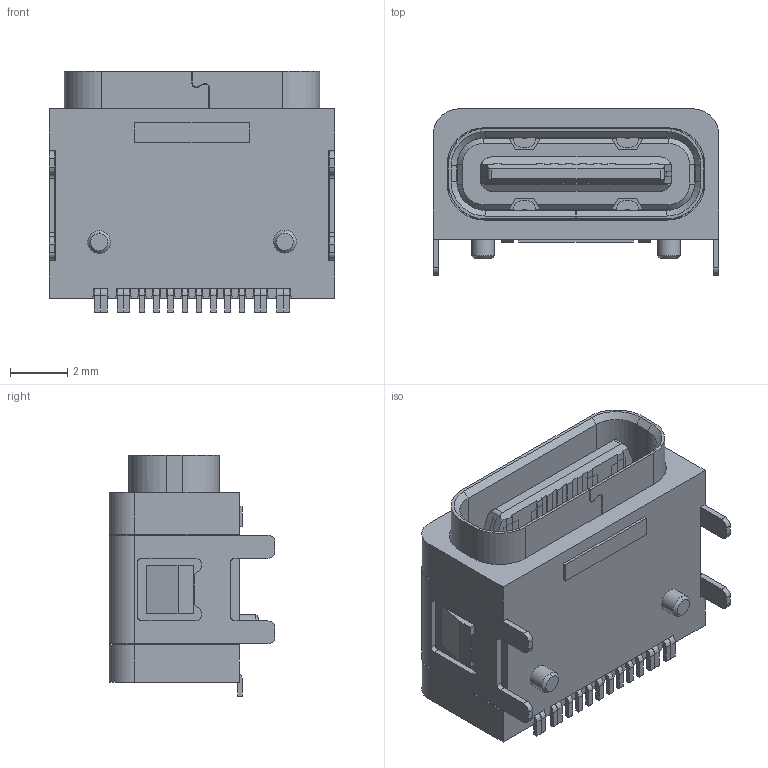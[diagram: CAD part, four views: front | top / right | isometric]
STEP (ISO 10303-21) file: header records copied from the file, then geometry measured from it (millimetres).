
FILE_DESCRIPTION((''),'2;1');
FILE_NAME('1030003','2022-05-05T10:38:15',('Administrator'),(''),'CREO PARAMETRIC BY PTC INC, 2019224','CREO PARAMETRIC BY PTC INC, 2019224','');
FILE_SCHEMA(('CONFIG_CONTROL_DESIGN'));
Products named in the file (1): 1030003
Bounding box: 10 x 5.81 x 8.45 mm (x, y, z)
Volume: 192.9 mm3; surface area: 1446.4 mm2
Topology: 1 solids, 11 shells, 3021 faces, 9218 edges, 6002 vertices
Faces by surface type: plane 2520, cylinder 451, cone 50
Entity records: 102024 total; most frequent: CARTESIAN_POINT 18560, ORIENTED_EDGE 18216, DIRECTION 16199, EDGE_CURVE 9218, VECTOR 8129, LINE 8129, VERTEX_POINT 6002, AXIS2_PLACEMENT_3D 4035
